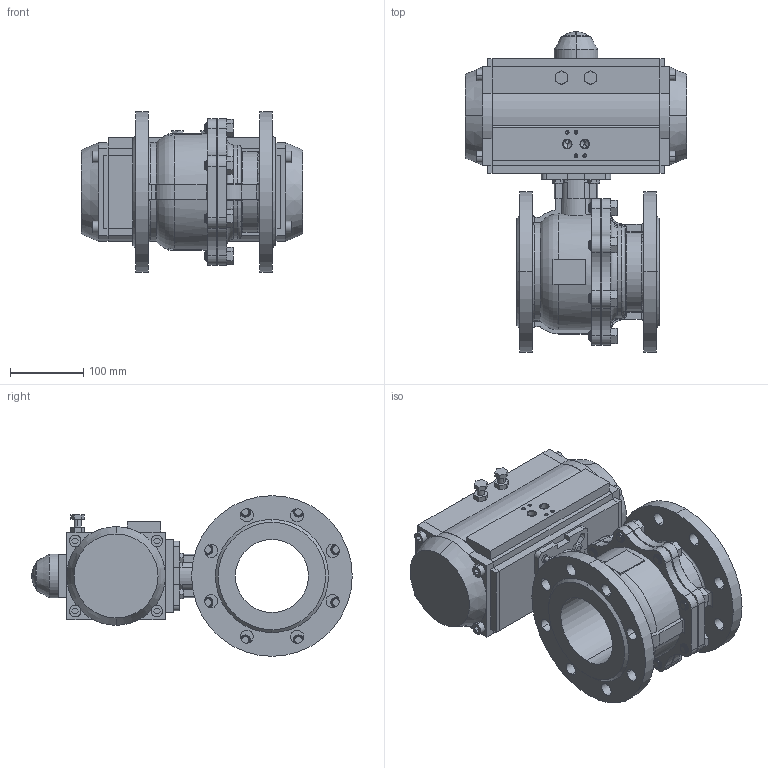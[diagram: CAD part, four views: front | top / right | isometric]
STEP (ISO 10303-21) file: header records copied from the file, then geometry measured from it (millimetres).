
FILE_DESCRIPTION((''),'2;1');
FILE_NAME('BV-22F_RPA_ASM','2024-09-11T',('USER'),(''),'PRO/ENGINEER BY PARAMETRIC TECHNOLOGY CORPORATION, 2011220','PRO/ENGINEER BY PARAMETRIC TECHNOLOGY CORPORATION, 2011220','');
FILE_SCHEMA(('CONFIG_CONTROL_DESIGN'));
Length unit declared in the file: millimetre
Products named in the file (12): KORPUS_KRAN_FL; BOLT_M14X30; SB_KRAN_FL_ASM; KORPUS_PNEVMOPRIVOD; KOLCO_35_GOST13942; KRISKA_VERX; VINT; KRISKA_LEFT; KRISKA_RIGHT; SB_PNEVMOPRIVOD_ASM; B-7798-M8-16; BV-22F_RPA_ASM
Assembly tree (21 placements, depth 3):
  BV-22F_RPA_ASM
    SB_KRAN_FL_ASM
      KORPUS_KRAN_FL
      BOLT_M14X30  x8
    SB_PNEVMOPRIVOD_ASM
      KORPUS_PNEVMOPRIVOD
      KOLCO_35_GOST13942
      KRISKA_VERX
      VINT
      KRISKA_LEFT
      KRISKA_RIGHT
    B-7798-M8-16  x4
Bounding box: 304 x 438.96 x 220 mm (x, y, z)
Volume: 8375480.4 mm3; surface area: 716757.4 mm2
Topology: 19 solids, 65 shells, 972 faces, 2517 edges, 1621 vertices
Faces by surface type: plane 449, cylinder 391, cone 90, bspline 20, torus 20, sphere 2
Entity records: 26946 total; most frequent: CARTESIAN_POINT 6048, DIRECTION 4509, ORIENTED_EDGE 4066, EDGE_CURVE 2107, AXIS2_PLACEMENT_3D 1658, VERTEX_POINT 1389, VECTOR 1193, LINE 1193
